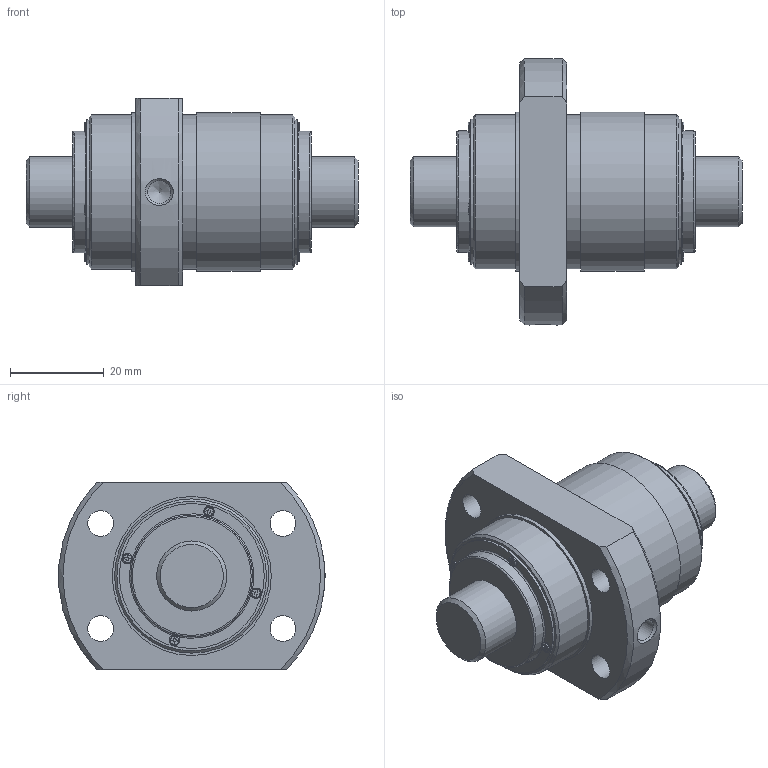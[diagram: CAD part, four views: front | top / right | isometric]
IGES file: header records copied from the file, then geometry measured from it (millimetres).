
Start section: Data from Parasolid IGES Translator 26.0.171, Copyright(c) 2006 Siemens PLM Software. All Rights Reserved.
Global section: file name: BLK1510-5.6ZZ+71LC7T_000.igs; native system: By Siemens PLM Incorporated; preprocessor: XPlus GENERIC/IGES 26.0.171; author: Noname; organization: Noname; date: 20250611.062410; units: millimetre
Bounding box: 71 x 56.89 x 40 mm (x, y, z)
Surface area: 16310.7 mm2 (no closed solid volume)
Topology: 0 solids, 0 shells, 215 faces, 1131 edges, 1066 vertices
Faces by surface type: extrusion 127, revolution 88
